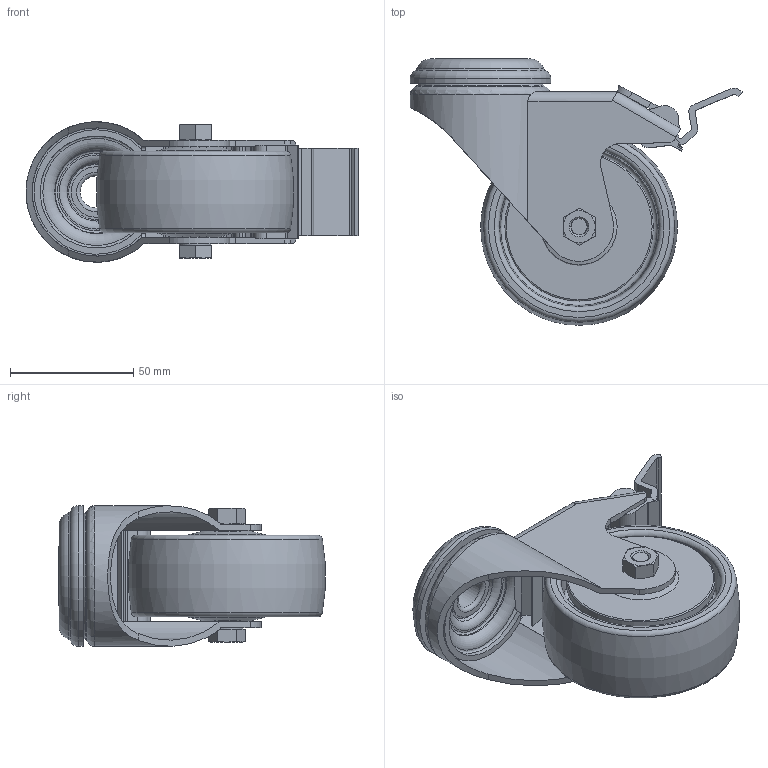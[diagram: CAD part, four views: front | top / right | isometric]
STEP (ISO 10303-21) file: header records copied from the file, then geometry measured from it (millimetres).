
FILE_DESCRIPTION(/* description */ ('STEP AP214'),/* implementation_level */ '2;1');
FILE_NAME(/* name */ '098S080GDN',/* time_stamp */ '2023-08-30T10:50:27+02:00',/* author */ ('License CC BY-ND 4.0'),/* organization */ ('CADENAS'),/* preprocessor_version */ 'ST-DEVELOPER v19.3',/* originating_system */ 'PARTsolutions',/* authorisation */ ' ');
FILE_SCHEMA (('AUTOMOTIVE_DESIGN {1 0 10303 214 3 1 1}'));
Length unit declared in the file: millimetre
Products named in the file (6): 098S080GDN; 098S080GDN_wb; 098S080GDN_w; 098S080GDN_s; 098S080GDN_nut; 098S080GDN_h
Assembly tree (6 placements, depth 2):
  098S080GDN
    098S080GDN_wb  x2
    098S080GDN_w
    098S080GDN_s
    098S080GDN_nut
    098S080GDN_h
Bounding box: 134.5 x 107.96 x 57 mm (x, y, z)
Volume: 198632.6 mm3; surface area: 77244.5 mm2
Topology: 6 solids, 6 shells, 308 faces, 797 edges, 509 vertices
Faces by surface type: plane 155, cylinder 75, cone 43, torus 35
Full cylindrical faces by diameter (mm): 6.647 x1, 8 x1, 8.2 x1, 8.5 x2, 12.8 x2, 13 x2, 19.5 x2, 20.45 x1, 29 x1, 57 x1, 60.16 x2
Entity records: 9197 total; most frequent: CARTESIAN_POINT 1852, DIRECTION 1502, ORIENTED_EDGE 1442, EDGE_CURVE 721, AXIS2_PLACEMENT_3D 566, VERTEX_POINT 494, EDGE_LOOP 383, FACE_BOUND 383
